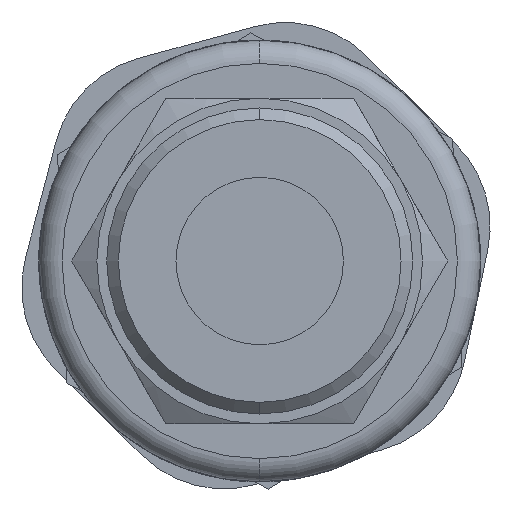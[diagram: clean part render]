
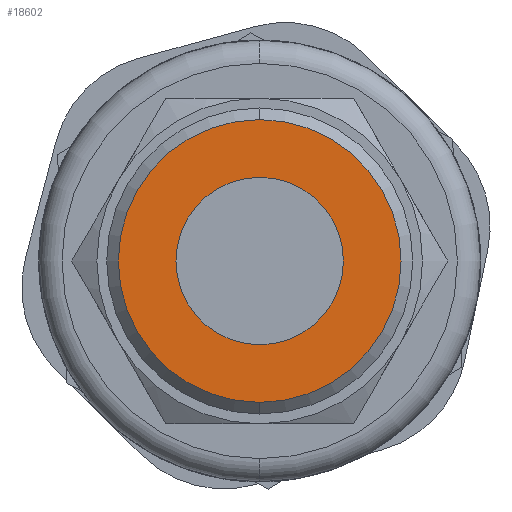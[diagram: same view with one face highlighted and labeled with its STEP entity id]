
A CAD part, front view. The second image highlights one B-rep face of the part: STEP entity #18602.
In plain terms, the highlighted planar face has unit normal (0, -1, 0).
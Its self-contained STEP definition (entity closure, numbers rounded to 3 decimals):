
#97 = CARTESIAN_POINT ( 'NONE',  ( 0., 0., -3.6 ) ) ;
#98 = DIRECTION ( 'NONE',  ( 0., 0., -1. ) ) ;
#99 = DIRECTION ( 'NONE',  ( 0., -1., 0. ) ) ;
#100 = CARTESIAN_POINT ( 'NONE',  ( 0., 0., 0. ) ) ;
#101 = AXIS2_PLACEMENT_3D ( 'NONE', #100, #99, #98 ) ;
#102 = CIRCLE ( 'NONE', #101, 3.6 ) ;
#103 = CARTESIAN_POINT ( 'NONE',  ( 0., 0., 3.6 ) ) ;
#1356 = CARTESIAN_POINT ( 'NONE',  ( 0., 0., -6.078 ) ) ;
#1357 = DIRECTION ( 'NONE',  ( 0., 0., 1. ) ) ;
#1358 = DIRECTION ( 'NONE',  ( 0., -1., 0. ) ) ;
#1359 = AXIS2_PLACEMENT_3D ( 'NONE', #1365, #1358, #1357 ) ;
#1360 = CIRCLE ( 'NONE', #1359, 6.078 ) ;
#1365 = CARTESIAN_POINT ( 'NONE',  ( 0., 0., 0. ) ) ;
#1578 = CARTESIAN_POINT ( 'NONE',  ( 0., 0., 6.078 ) ) ;
#2086 = CARTESIAN_POINT ( 'NONE',  ( 0., 0., 0. ) ) ;
#2283 = FACE_OUTER_BOUND ( 'NONE', #18607, .T. ) ;
#2284 = FACE_BOUND ( 'NONE', #18603, .T. ) ;
#2311 = AXIS2_PLACEMENT_3D ( 'NONE', #2086, #2362, #2361 ) ;
#2312 = CIRCLE ( 'NONE', #2311, 6.078 ) ;
#2314 = DIRECTION ( 'NONE',  ( 0., 0., -1. ) ) ;
#2315 = DIRECTION ( 'NONE',  ( 0., -1., 0. ) ) ;
#2316 = CARTESIAN_POINT ( 'NONE',  ( 0., 0., 0. ) ) ;
#2317 = AXIS2_PLACEMENT_3D ( 'NONE', #2316, #2315, #2314 ) ;
#2318 = CIRCLE ( 'NONE', #2317, 3.6 ) ;
#2319 = DIRECTION ( 'NONE',  ( 0., 0., 1. ) ) ;
#2320 = DIRECTION ( 'NONE',  ( 0., 1., 0. ) ) ;
#2321 = CARTESIAN_POINT ( 'NONE',  ( 0., 0., 0. ) ) ;
#2322 = AXIS2_PLACEMENT_3D ( 'NONE', #2321, #2320, #2319 ) ;
#2323 = PLANE ( 'NONE',  #2322 ) ;
#2361 = DIRECTION ( 'NONE',  ( 0., 0., 1. ) ) ;
#2362 = DIRECTION ( 'NONE',  ( 0., -1., 0. ) ) ;
#17875 = VERTEX_POINT ( 'NONE', #103 ) ;
#17877 = EDGE_CURVE ( 'NONE', #17875, #17878, #102, .T. ) ;
#17878 = VERTEX_POINT ( 'NONE', #97 ) ;
#18319 = EDGE_CURVE ( 'NONE', #18320, #18373, #1360, .T. ) ;
#18320 = VERTEX_POINT ( 'NONE', #1356 ) ;
#18373 = VERTEX_POINT ( 'NONE', #1578 ) ;
#18602 = ADVANCED_FACE ( 'NONE', ( #2284, #2283 ), #2323, .F. ) ;
#18603 = EDGE_LOOP ( 'NONE', ( #18604, #18606 ) ) ;
#18604 = ORIENTED_EDGE ( 'NONE', *, *, #18605, .F. ) ;
#18605 = EDGE_CURVE ( 'NONE', #17878, #17875, #2318, .T. ) ;
#18606 = ORIENTED_EDGE ( 'NONE', *, *, #17877, .F. ) ;
#18607 = EDGE_LOOP ( 'NONE', ( #18608, #18610 ) ) ;
#18608 = ORIENTED_EDGE ( 'NONE', *, *, #18609, .T. ) ;
#18609 = EDGE_CURVE ( 'NONE', #18373, #18320, #2312, .T. ) ;
#18610 = ORIENTED_EDGE ( 'NONE', *, *, #18319, .T. ) ;
